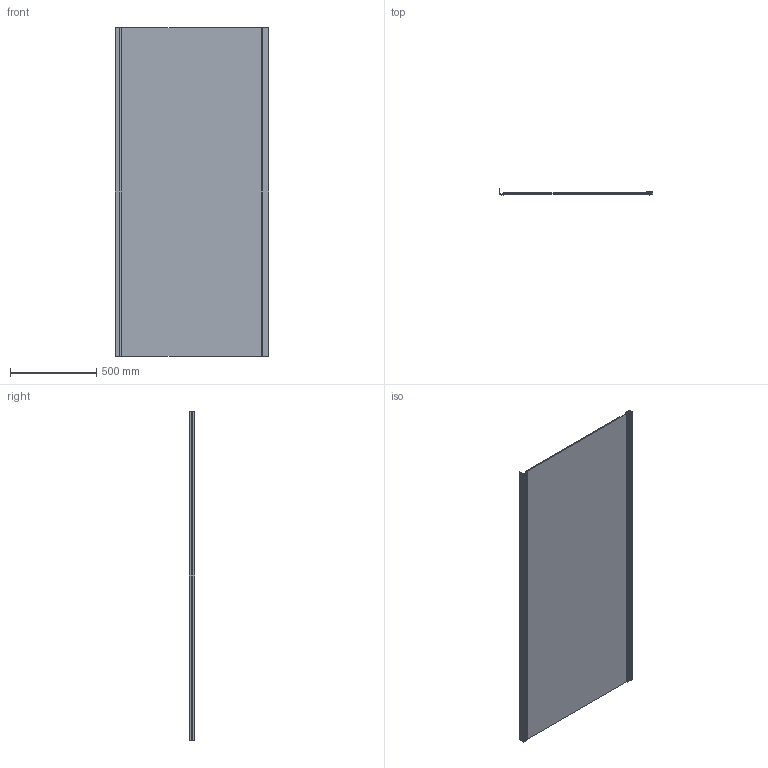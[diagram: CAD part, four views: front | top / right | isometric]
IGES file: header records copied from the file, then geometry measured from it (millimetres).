
Global section: file name: C:\Users\user\Downloads\MOOC_20160920_(2z2)\Chelsea NDR90X\Chelsea NDR90X.igs; native system: Rhinoceros ( Feb  3 2015 ); preprocessor: Trout Lake IGES 012 Feb  3 2015; date: 161007.123210; units: millimetre
Bounding box: 890 x 31.94 x 1900 mm (x, y, z)
Surface area: 4395546.4 mm2 (no closed solid volume)
Topology: 0 solids, 0 shells, 363 faces, 2150 edges, 2150 vertices
Faces by surface type: bspline 363
